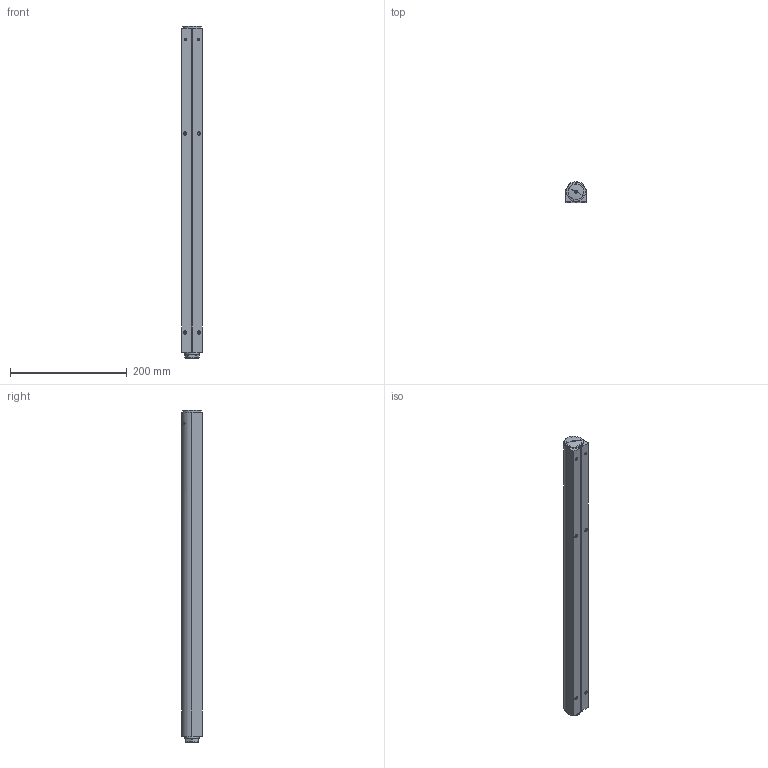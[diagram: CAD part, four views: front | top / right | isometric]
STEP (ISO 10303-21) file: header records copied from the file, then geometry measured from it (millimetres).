
FILE_DESCRIPTION (( 'STEP AP203' ), '1' );
FILE_NAME ('CBX40.STEP', '2014-02-06T20:55:29', ( '' ), ( '' ), 'SwSTEP 2.0', 'SolidWorks 2013', '' );
FILE_SCHEMA (( 'CONFIG_CONTROL_DESIGN' ));
Length unit declared in the file: millimetre
Products named in the file (1): CBX40
Bounding box: 35 x 35 x 567.65 mm (x, y, z)
Volume: 366521 mm3; surface area: 236034.7 mm2
Topology: 7 solids, 15 shells, 898 faces, 2413 edges, 1579 vertices
Faces by surface type: plane 326, cylinder 264, bspline 206, cone 62, torus 32, sphere 8
Entity records: 38904 total; most frequent: CARTESIAN_POINT 18633, ORIENTED_EDGE 4826, DIRECTION 3321, EDGE_CURVE 2413, VERTEX_POINT 1579, AXIS2_PLACEMENT_3D 1284, EDGE_LOOP 962, B_SPLINE_CURVE_WITH_KNOTS 922
